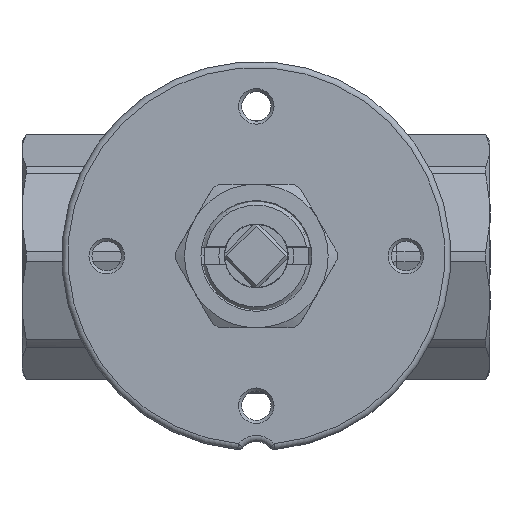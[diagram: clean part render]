
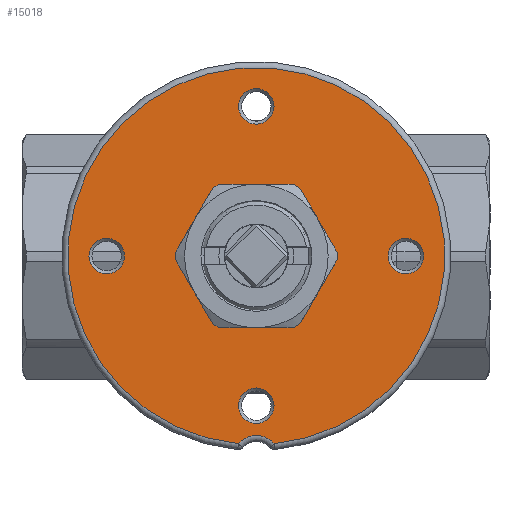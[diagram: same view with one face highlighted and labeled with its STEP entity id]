
A CAD part, top view. The second image highlights one B-rep face of the part: STEP entity #15018.
In plain terms, the highlighted planar face has unit normal (0, 0, 1) as drawn and (-1, 0, 0) by its records, which use the part's own axes.
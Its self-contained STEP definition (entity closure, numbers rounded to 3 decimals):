
#14934=CARTESIAN_POINT('',(-12.5,2.959,-25.0));
#14935=VERTEX_POINT('',#14934);
#14936=CARTESIAN_POINT('',(-12.5,0.,-25.0));
#14937=DIRECTION('',(-1.0,0.0,0.0));
#14938=DIRECTION('',(0.0,-1.0,0.0));
#14939=AXIS2_PLACEMENT_3D('',#14936,#14937,#14938);
#14940=CIRCLE('',#14939,2.959);
#14941=EDGE_CURVE('',#14935,#14935,#14940,.T.);
#14946=CARTESIAN_POINT('',(-12.5,16.25,0.0));
#14947=DIRECTION('',(-1.0,0.0,0.0));
#14948=DIRECTION('',(0.0,0.0,1.0));
#14949=AXIS2_PLACEMENT_3D('',#14946,#14947,#14948);
#14950=PLANE('',#14949);
#14951=CARTESIAN_POINT('',(-12.5,3.002,31.357));
#14952=VERTEX_POINT('',#14951);
#14953=CARTESIAN_POINT('',(-12.5,-3.002,31.357));
#14954=VERTEX_POINT('',#14953);
#14955=CARTESIAN_POINT('',(-12.5,0.,34.0));
#14956=DIRECTION('',(-1.0,0.0,0.0));
#14957=DIRECTION('',(0.0,0.0,-1.0));
#14958=AXIS2_PLACEMENT_3D('',#14955,#14956,#14957);
#14959=CIRCLE('',#14958,4.0);
#14960=EDGE_CURVE('',#14952,#14954,#14959,.T.);
#14961=ORIENTED_EDGE('',*,*,#14960,.F.);
#14962=CARTESIAN_POINT('',(-12.5,0.,0.0));
#14963=DIRECTION('',(1.0,0.0,0.0));
#14964=DIRECTION('',(0.0,-1.0,0.0));
#14965=AXIS2_PLACEMENT_3D('',#14962,#14963,#14964);
#14966=CIRCLE('',#14965,31.5);
#14967=EDGE_CURVE('',#14954,#14952,#14966,.T.);
#14968=ORIENTED_EDGE('',*,*,#14967,.F.);
#14969=EDGE_LOOP('',(#14961,#14968));
#14970=FACE_OUTER_BOUND('',#14969,.T.);
#14971=CARTESIAN_POINT('',(-12.5,27.958,0.));
#14972=VERTEX_POINT('',#14971);
#14973=CARTESIAN_POINT('',(-12.5,25.0,0.0));
#14974=DIRECTION('',(-1.0,0.0,0.0));
#14975=DIRECTION('',(0.0,-1.0,0.0));
#14976=AXIS2_PLACEMENT_3D('',#14973,#14974,#14975);
#14977=CIRCLE('',#14976,2.958);
#14978=EDGE_CURVE('',#14972,#14972,#14977,.T.);
#14979=ORIENTED_EDGE('',*,*,#14978,.F.);
#14980=EDGE_LOOP('',(#14979));
#14981=FACE_BOUND('',#14980,.T.);
#14982=CARTESIAN_POINT('',(-12.5,2.959,25.0));
#14983=VERTEX_POINT('',#14982);
#14984=CARTESIAN_POINT('',(-12.5,0.,25.0));
#14985=DIRECTION('',(-1.0,0.0,0.0));
#14986=DIRECTION('',(0.0,-1.0,0.0));
#14987=AXIS2_PLACEMENT_3D('',#14984,#14985,#14986);
#14988=CIRCLE('',#14987,2.959);
#14989=EDGE_CURVE('',#14983,#14983,#14988,.T.);
#14990=ORIENTED_EDGE('',*,*,#14989,.F.);
#14991=EDGE_LOOP('',(#14990));
#14992=FACE_BOUND('',#14991,.T.);
#14993=CARTESIAN_POINT('',(-12.5,-9.5,0.));
#14994=VERTEX_POINT('',#14993);
#14995=CARTESIAN_POINT('',(-12.5,0.,0.0));
#14996=DIRECTION('',(1.0,0.0,0.0));
#14997=DIRECTION('',(0.0,1.0,0.0));
#14998=AXIS2_PLACEMENT_3D('',#14995,#14996,#14997);
#14999=CIRCLE('',#14998,9.5);
#15000=EDGE_CURVE('',#14994,#14994,#14999,.T.);
#15001=ORIENTED_EDGE('',*,*,#15000,.T.);
#15002=EDGE_LOOP('',(#15001));
#15003=FACE_BOUND('',#15002,.T.);
#15004=CARTESIAN_POINT('',(-12.5,-22.042,0.));
#15005=VERTEX_POINT('',#15004);
#15006=CARTESIAN_POINT('',(-12.5,-25.0,0.0));
#15007=DIRECTION('',(-1.0,0.0,0.0));
#15008=DIRECTION('',(0.0,-1.0,0.0));
#15009=AXIS2_PLACEMENT_3D('',#15006,#15007,#15008);
#15010=CIRCLE('',#15009,2.958);
#15011=EDGE_CURVE('',#15005,#15005,#15010,.T.);
#15012=ORIENTED_EDGE('',*,*,#15011,.F.);
#15013=EDGE_LOOP('',(#15012));
#15014=FACE_BOUND('',#15013,.T.);
#15015=ORIENTED_EDGE('',*,*,#14941,.F.);
#15016=EDGE_LOOP('',(#15015));
#15017=FACE_BOUND('',#15016,.T.);
#15018=ADVANCED_FACE('',(#14970,#14981,#14992,#15003,#15014,#15017),#14950,.T.);
